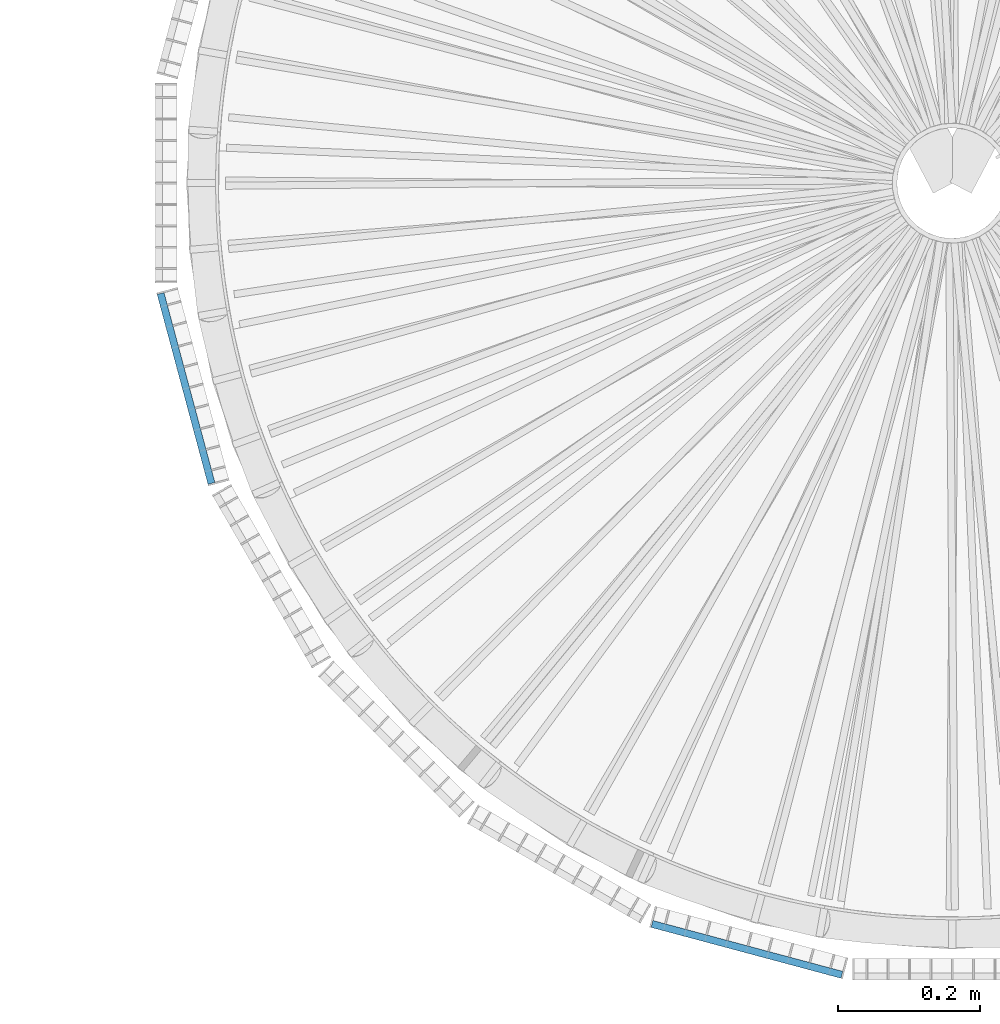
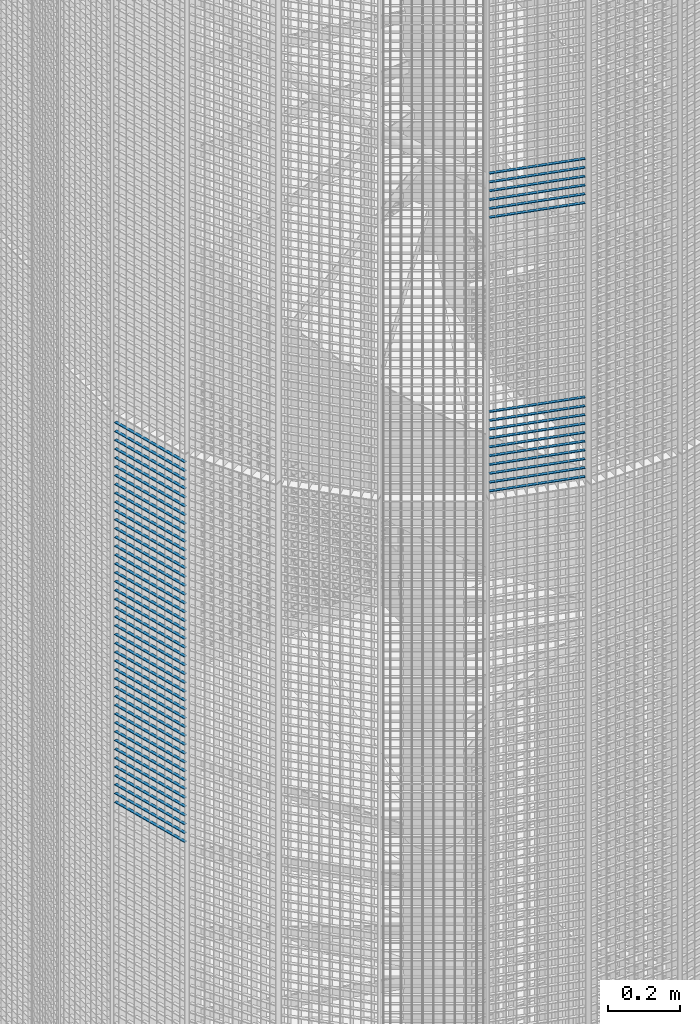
# One storey, part 340 of 1148: 60 beams, 2 elements without a shape of their own.
"""IFC2X3 building model written with IfcOpenShell, lengths in millimetres."""

from ifc_helpers import new_model, si_unit, frame, origin_with_axes, origin_2d_with_axis, place, context, subcontext, project, spatial, rectangle, extrude, material, type_object, element, aggregate, save


model = new_model("IFC2X3")

# Units and contexts
model_context = context("Model", 3, precision=1e-05, world=origin_with_axes())
body_context = subcontext(model_context, "Body", "Model", "MODEL_VIEW")
ifc_project = project(units=[si_unit("LENGTHUNIT", "METRE", prefix="MILLI"), si_unit("AREAUNIT", "SQUARE_METRE"), si_unit("VOLUMEUNIT", "CUBIC_METRE"), si_unit("MASSUNIT", "GRAM", prefix="KILO"), si_unit("TIMEUNIT", "SECOND"), si_unit("PLANEANGLEUNIT", "RADIAN"), si_unit("SOLIDANGLEUNIT", "STERADIAN"), si_unit("THERMODYNAMICTEMPERATUREUNIT", "DEGREE_CELSIUS"), si_unit("LUMINOUSINTENSITYUNIT", "LUMEN")], contexts=[model_context])

# Site, building, storey
site_placement = place(None, origin_with_axes())
site = spatial("IfcSite", under=ifc_project, at=site_placement, Name="Undefined", CompositionType="ELEMENT")
building_placement = place(site_placement, origin_with_axes())
building = spatial("IfcBuilding", under=site, at=building_placement, Name="Undefined", CompositionType="ELEMENT")
storey_placement = place(building_placement, origin_with_axes())
storey = spatial("IfcBuildingStorey", under=building, at=storey_placement, Name="Undefined", CompositionType="ELEMENT", Elevation=0.0)

# Assembly, beams
assembly_1_placement = place(storey_placement, origin_with_axes())
assembly_1 = element("IfcElementAssembly", 1, at=assembly_1_placement, inside=storey, Name="BORDURE", AssemblyPlace="NOTDEFINED", PredefinedType="NOTDEFINED")
ifc_material = material(Name="STEEL/S235JR")
beam_type = type_object("IfcBeamType", Name="PL2*10", PredefinedType="NOTDEFINED")
beam_1_placement = place(assembly_1_placement, frame((21445.1040732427, -1111.25508286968, 12960.0), z_axis=(-0.258819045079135, -0.965925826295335, 0.0), x_axis=(-0.965925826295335, 0.258819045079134, 0.0)))
beam_1 = element("IfcBeam", 2, at=beam_1_placement, type_object=beam_type, material=ifc_material, Name="ENTRETOISE", context=body_context, shape_type="SweptSolid", body=[
    extrude(rectangle(XDim=2.0, YDim=10.0, at=origin_2d_with_axis()), frame((275.999999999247, 9.09494701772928e-13, 1.53210777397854e-14), z_axis=(-1.0, 0.0, 0.0), x_axis=(0.0, -1.0, 0.0)), (0.0, 0.0, 1.0), 276.0),
])
beam_2_placement = place(assembly_1_placement, frame((21445.1040732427, -1111.25508286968, 12300.0), z_axis=(-0.258819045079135, -0.965925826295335, 0.0), x_axis=(-0.965925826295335, 0.258819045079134, 0.0)))
beam_2 = element("IfcBeam", 3, at=beam_2_placement, type_object=beam_type, material=ifc_material, Name="ENTRETOISE", context=body_context, shape_type="SweptSolid", body=[
    extrude(rectangle(XDim=2.0, YDim=10.0, at=origin_2d_with_axis()), frame((275.999999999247, 9.09494701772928e-13, 1.53210777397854e-14), z_axis=(-1.0, 0.0, 0.0), x_axis=(0.0, -1.0, 0.0)), (0.0, 0.0, 1.0), 276.0),
])
beam_3_placement = place(assembly_1_placement, frame((21445.1040732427, -1111.25508286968, 12270.0), z_axis=(-0.258819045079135, -0.965925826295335, 0.0), x_axis=(-0.965925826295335, 0.258819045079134, 0.0)))
beam_3 = element("IfcBeam", 4, at=beam_3_placement, type_object=beam_type, material=ifc_material, Name="ENTRETOISE", context=body_context, shape_type="SweptSolid", body=[
    extrude(rectangle(XDim=2.0, YDim=10.0, at=origin_2d_with_axis()), frame((275.999999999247, 9.09494701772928e-13, 1.53210777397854e-14), z_axis=(-1.0, 0.0, 0.0), x_axis=(0.0, -1.0, 0.0)), (0.0, 0.0, 1.0), 276.0),
])
beam_4_placement = place(assembly_1_placement, frame((21445.1040732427, -1111.25508286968, 12990.0), z_axis=(-0.258819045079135, -0.965925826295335, 0.0), x_axis=(-0.965925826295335, 0.258819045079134, 0.0)))
beam_4 = element("IfcBeam", 5, at=beam_4_placement, type_object=beam_type, material=ifc_material, Name="ENTRETOISE", context=body_context, shape_type="SweptSolid", body=[
    extrude(rectangle(XDim=2.0, YDim=10.0, at=origin_2d_with_axis()), frame((275.999999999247, 9.09494701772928e-13, 1.53210777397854e-14), z_axis=(-1.0, 0.0, 0.0), x_axis=(0.0, -1.0, 0.0)), (0.0, 0.0, 1.0), 276.0),
])
beam_5_placement = place(assembly_1_placement, frame((21445.1040732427, -1111.25508286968, 12240.0), z_axis=(-0.258819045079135, -0.965925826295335, 0.0), x_axis=(-0.965925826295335, 0.258819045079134, 0.0)))
beam_5 = element("IfcBeam", 6, at=beam_5_placement, type_object=beam_type, material=ifc_material, Name="ENTRETOISE", context=body_context, shape_type="SweptSolid", body=[
    extrude(rectangle(XDim=2.0, YDim=10.0, at=origin_2d_with_axis()), frame((275.999999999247, 9.09494701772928e-13, 1.53210777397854e-14), z_axis=(-1.0, 0.0, 0.0), x_axis=(0.0, -1.0, 0.0)), (0.0, 0.0, 1.0), 276.0),
])
beam_6_placement = place(assembly_1_placement, frame((21445.1040732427, -1111.25508286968, 13020.0), z_axis=(-0.258819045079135, -0.965925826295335, 0.0), x_axis=(-0.965925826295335, 0.258819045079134, 0.0)))
beam_6 = element("IfcBeam", 7, at=beam_6_placement, type_object=beam_type, material=ifc_material, Name="ENTRETOISE", context=body_context, shape_type="SweptSolid", body=[
    extrude(rectangle(XDim=2.0, YDim=10.0, at=origin_2d_with_axis()), frame((275.999999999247, 9.09494701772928e-13, 1.53210777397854e-14), z_axis=(-1.0, 0.0, 0.0), x_axis=(0.0, -1.0, 0.0)), (0.0, 0.0, 1.0), 276.0),
])
beam_7_placement = place(assembly_1_placement, frame((21445.1040732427, -1111.25508286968, 12210.0), z_axis=(-0.258819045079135, -0.965925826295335, 0.0), x_axis=(-0.965925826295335, 0.258819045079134, 0.0)))
beam_7 = element("IfcBeam", 8, at=beam_7_placement, type_object=beam_type, material=ifc_material, Name="ENTRETOISE", context=body_context, shape_type="SweptSolid", body=[
    extrude(rectangle(XDim=2.0, YDim=10.0, at=origin_2d_with_axis()), frame((275.999999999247, 9.09494701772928e-13, 1.53210777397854e-14), z_axis=(-1.0, 0.0, 0.0), x_axis=(0.0, -1.0, 0.0)), (0.0, 0.0, 1.0), 276.0),
])
beam_8_placement = place(assembly_1_placement, frame((21445.1040732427, -1111.25508286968, 12180.0), z_axis=(-0.258819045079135, -0.965925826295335, 0.0), x_axis=(-0.965925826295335, 0.258819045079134, 0.0)))
beam_8 = element("IfcBeam", 9, at=beam_8_placement, type_object=beam_type, material=ifc_material, Name="ENTRETOISE", context=body_context, shape_type="SweptSolid", body=[
    extrude(rectangle(XDim=2.0, YDim=10.0, at=origin_2d_with_axis()), frame((275.999999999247, 9.09494701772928e-13, 1.53210777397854e-14), z_axis=(-1.0, 0.0, 0.0), x_axis=(0.0, -1.0, 0.0)), (0.0, 0.0, 1.0), 276.0),
])
beam_9_placement = place(assembly_1_placement, frame((21445.1040732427, -1111.25508286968, 13050.0), z_axis=(-0.258819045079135, -0.965925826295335, 0.0), x_axis=(-0.965925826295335, 0.258819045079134, 0.0)))
beam_9 = element("IfcBeam", 10, at=beam_9_placement, type_object=beam_type, material=ifc_material, Name="ENTRETOISE", context=body_context, shape_type="SweptSolid", body=[
    extrude(rectangle(XDim=2.0, YDim=10.0, at=origin_2d_with_axis()), frame((275.999999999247, 9.09494701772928e-13, 1.53210777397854e-14), z_axis=(-1.0, 0.0, 0.0), x_axis=(0.0, -1.0, 0.0)), (0.0, 0.0, 1.0), 276.0),
])
beam_10_placement = place(assembly_1_placement, frame((21445.1040732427, -1111.25508286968, 12150.0), z_axis=(-0.258819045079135, -0.965925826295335, 0.0), x_axis=(-0.965925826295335, 0.258819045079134, 0.0)))
beam_10 = element("IfcBeam", 11, at=beam_10_placement, type_object=beam_type, material=ifc_material, Name="ENTRETOISE", context=body_context, shape_type="SweptSolid", body=[
    extrude(rectangle(XDim=2.0, YDim=10.0, at=origin_2d_with_axis()), frame((275.999999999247, 9.09494701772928e-13, 1.53210777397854e-14), z_axis=(-1.0, 0.0, 0.0), x_axis=(0.0, -1.0, 0.0)), (0.0, 0.0, 1.0), 276.0),
])
beam_11_placement = place(assembly_1_placement, frame((21445.1040732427, -1111.25508286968, 12120.0), z_axis=(-0.258819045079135, -0.965925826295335, 0.0), x_axis=(-0.965925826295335, 0.258819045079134, 0.0)))
beam_11 = element("IfcBeam", 12, at=beam_11_placement, type_object=beam_type, material=ifc_material, Name="ENTRETOISE", context=body_context, shape_type="SweptSolid", body=[
    extrude(rectangle(XDim=2.0, YDim=10.0, at=origin_2d_with_axis()), frame((275.999999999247, 9.09494701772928e-13, 1.53210777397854e-14), z_axis=(-1.0, 0.0, 0.0), x_axis=(0.0, -1.0, 0.0)), (0.0, 0.0, 1.0), 276.0),
])
beam_12_placement = place(assembly_1_placement, frame((21445.1040732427, -1111.25508286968, 13080.0), z_axis=(-0.258819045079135, -0.965925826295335, 0.0), x_axis=(-0.965925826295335, 0.258819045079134, 0.0)))
beam_12 = element("IfcBeam", 13, at=beam_12_placement, type_object=beam_type, material=ifc_material, Name="ENTRETOISE", context=body_context, shape_type="SweptSolid", body=[
    extrude(rectangle(XDim=2.0, YDim=10.0, at=origin_2d_with_axis()), frame((275.999999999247, 9.09494701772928e-13, 1.53210777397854e-14), z_axis=(-1.0, 0.0, 0.0), x_axis=(0.0, -1.0, 0.0)), (0.0, 0.0, 1.0), 276.0),
])
beam_13_placement = place(assembly_1_placement, frame((21445.1040732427, -1111.25508286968, 12090.0), z_axis=(-0.258819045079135, -0.965925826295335, 0.0), x_axis=(-0.965925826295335, 0.258819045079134, 0.0)))
beam_13 = element("IfcBeam", 14, at=beam_13_placement, type_object=beam_type, material=ifc_material, Name="ENTRETOISE", context=body_context, shape_type="SweptSolid", body=[
    extrude(rectangle(XDim=2.0, YDim=10.0, at=origin_2d_with_axis()), frame((275.999999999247, 9.09494701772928e-13, 1.53210777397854e-14), z_axis=(-1.0, 0.0, 0.0), x_axis=(0.0, -1.0, 0.0)), (0.0, 0.0, 1.0), 276.0),
])
beam_14_placement = place(assembly_1_placement, frame((21445.1040732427, -1111.25508286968, 12060.0), z_axis=(-0.258819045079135, -0.965925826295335, 0.0), x_axis=(-0.965925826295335, 0.258819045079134, 0.0)))
beam_14 = element("IfcBeam", 15, at=beam_14_placement, type_object=beam_type, material=ifc_material, Name="ENTRETOISE", context=body_context, shape_type="SweptSolid", body=[
    extrude(rectangle(XDim=2.0, YDim=10.0, at=origin_2d_with_axis()), frame((275.999999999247, 9.09494701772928e-13, 1.53210777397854e-14), z_axis=(-1.0, 0.0, 0.0), x_axis=(0.0, -1.0, 0.0)), (0.0, 0.0, 1.0), 276.0),
])
beam_15_placement = place(assembly_1_placement, frame((21445.1040732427, -1111.25508286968, 13110.0), z_axis=(-0.258819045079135, -0.965925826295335, 0.0), x_axis=(-0.965925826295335, 0.258819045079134, 0.0)))
beam_15 = element("IfcBeam", 16, at=beam_15_placement, type_object=beam_type, material=ifc_material, Name="ENTRETOISE", context=body_context, shape_type="SweptSolid", body=[
    extrude(rectangle(XDim=2.0, YDim=10.0, at=origin_2d_with_axis()), frame((275.999999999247, 9.09494701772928e-13, 1.53210777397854e-14), z_axis=(-1.0, 0.0, 0.0), x_axis=(0.0, -1.0, 0.0)), (0.0, 0.0, 1.0), 276.0),
])
beam_16_placement = place(assembly_1_placement, frame((21445.1040732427, -1111.25508286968, 12030.0), z_axis=(-0.258819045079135, -0.965925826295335, 0.0), x_axis=(-0.965925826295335, 0.258819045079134, 0.0)))
beam_16 = element("IfcBeam", 17, at=beam_16_placement, type_object=beam_type, material=ifc_material, Name="ENTRETOISE", context=body_context, shape_type="SweptSolid", body=[
    extrude(rectangle(XDim=2.0, YDim=10.0, at=origin_2d_with_axis()), frame((275.999999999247, 9.09494701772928e-13, 1.53210777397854e-14), z_axis=(-1.0, 0.0, 0.0), x_axis=(0.0, -1.0, 0.0)), (0.0, 0.0, 1.0), 276.0),
])
aggregate(assembly_1, [beam_1, beam_2, beam_3, beam_4, beam_5, beam_6, beam_7, beam_8, beam_9, beam_10, beam_11, beam_12, beam_13, beam_14, beam_15, beam_16])

assembly_2_placement = place(storey_placement, origin_with_axes())
assembly_2 = element("IfcElementAssembly", 18, at=assembly_2_placement, inside=storey, Name="BORDURE", AssemblyPlace="NOTDEFINED", PredefinedType="NOTDEFINED")
beam_17_placement = place(assembly_2_placement, frame((20560.1769047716, -421.483733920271, 11970.0), z_axis=(-0.965925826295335, -0.258819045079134, 0.0), x_axis=(-0.258819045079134, 0.965925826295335, 0.0)))
beam_17 = element("IfcBeam", 19, at=beam_17_placement, type_object=beam_type, material=ifc_material, Name="ENTRETOISE", context=body_context, shape_type="SweptSolid", body=[
    extrude(rectangle(XDim=2.0, YDim=10.0, at=origin_2d_with_axis()), frame((275.999999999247, 9.09494701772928e-13, 1.53210777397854e-14), z_axis=(-1.0, 0.0, 0.0), x_axis=(0.0, -1.0, 0.0)), (0.0, 0.0, 1.0), 276.0),
])
beam_18_placement = place(assembly_2_placement, frame((20560.1769047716, -421.483733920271, 11940.0), z_axis=(-0.965925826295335, -0.258819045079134, 0.0), x_axis=(-0.258819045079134, 0.965925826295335, 0.0)))
beam_18 = element("IfcBeam", 20, at=beam_18_placement, type_object=beam_type, material=ifc_material, Name="ENTRETOISE", context=body_context, shape_type="SweptSolid", body=[
    extrude(rectangle(XDim=2.0, YDim=10.0, at=origin_2d_with_axis()), frame((275.999999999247, 9.09494701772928e-13, 1.53210777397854e-14), z_axis=(-1.0, 0.0, 0.0), x_axis=(0.0, -1.0, 0.0)), (0.0, 0.0, 1.0), 276.0),
])
beam_19_placement = place(assembly_2_placement, frame((20560.1769047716, -421.483733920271, 11910.0), z_axis=(-0.965925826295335, -0.258819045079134, 0.0), x_axis=(-0.258819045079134, 0.965925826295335, 0.0)))
beam_19 = element("IfcBeam", 21, at=beam_19_placement, type_object=beam_type, material=ifc_material, Name="ENTRETOISE", context=body_context, shape_type="SweptSolid", body=[
    extrude(rectangle(XDim=2.0, YDim=10.0, at=origin_2d_with_axis()), frame((275.999999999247, 9.09494701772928e-13, 1.53210777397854e-14), z_axis=(-1.0, 0.0, 0.0), x_axis=(0.0, -1.0, 0.0)), (0.0, 0.0, 1.0), 276.0),
])
beam_20_placement = place(assembly_2_placement, frame((20560.1769047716, -421.483733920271, 11880.0), z_axis=(-0.965925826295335, -0.258819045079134, 0.0), x_axis=(-0.258819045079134, 0.965925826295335, 0.0)))
beam_20 = element("IfcBeam", 22, at=beam_20_placement, type_object=beam_type, material=ifc_material, Name="ENTRETOISE", context=body_context, shape_type="SweptSolid", body=[
    extrude(rectangle(XDim=2.0, YDim=10.0, at=origin_2d_with_axis()), frame((275.999999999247, 9.09494701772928e-13, 1.53210777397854e-14), z_axis=(-1.0, 0.0, 0.0), x_axis=(0.0, -1.0, 0.0)), (0.0, 0.0, 1.0), 276.0),
])
beam_21_placement = place(assembly_2_placement, frame((20560.1769047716, -421.483733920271, 11850.0), z_axis=(-0.965925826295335, -0.258819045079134, 0.0), x_axis=(-0.258819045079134, 0.965925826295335, 0.0)))
beam_21 = element("IfcBeam", 23, at=beam_21_placement, type_object=beam_type, material=ifc_material, Name="ENTRETOISE", context=body_context, shape_type="SweptSolid", body=[
    extrude(rectangle(XDim=2.0, YDim=10.0, at=origin_2d_with_axis()), frame((275.999999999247, 9.09494701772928e-13, 1.53210777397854e-14), z_axis=(-1.0, 0.0, 0.0), x_axis=(0.0, -1.0, 0.0)), (0.0, 0.0, 1.0), 276.0),
])
beam_22_placement = place(assembly_2_placement, frame((20560.1769047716, -421.483733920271, 11820.0), z_axis=(-0.965925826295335, -0.258819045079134, 0.0), x_axis=(-0.258819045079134, 0.965925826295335, 0.0)))
beam_22 = element("IfcBeam", 24, at=beam_22_placement, type_object=beam_type, material=ifc_material, Name="ENTRETOISE", context=body_context, shape_type="SweptSolid", body=[
    extrude(rectangle(XDim=2.0, YDim=10.0, at=origin_2d_with_axis()), frame((275.999999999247, 9.09494701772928e-13, 1.53210777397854e-14), z_axis=(-1.0, 0.0, 0.0), x_axis=(0.0, -1.0, 0.0)), (0.0, 0.0, 1.0), 276.0),
])
beam_23_placement = place(assembly_2_placement, frame((20560.1769047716, -421.483733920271, 11790.0), z_axis=(-0.965925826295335, -0.258819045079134, 0.0), x_axis=(-0.258819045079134, 0.965925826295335, 0.0)))
beam_23 = element("IfcBeam", 25, at=beam_23_placement, type_object=beam_type, material=ifc_material, Name="ENTRETOISE", context=body_context, shape_type="SweptSolid", body=[
    extrude(rectangle(XDim=2.0, YDim=10.0, at=origin_2d_with_axis()), frame((275.999999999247, 9.09494701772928e-13, 1.53210777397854e-14), z_axis=(-1.0, 0.0, 0.0), x_axis=(0.0, -1.0, 0.0)), (0.0, 0.0, 1.0), 276.0),
])
beam_24_placement = place(assembly_2_placement, frame((20560.1769047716, -421.483733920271, 11760.0), z_axis=(-0.965925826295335, -0.258819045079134, 0.0), x_axis=(-0.258819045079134, 0.965925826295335, 0.0)))
beam_24 = element("IfcBeam", 26, at=beam_24_placement, type_object=beam_type, material=ifc_material, Name="ENTRETOISE", context=body_context, shape_type="SweptSolid", body=[
    extrude(rectangle(XDim=2.0, YDim=10.0, at=origin_2d_with_axis()), frame((275.999999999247, 9.09494701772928e-13, 1.53210777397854e-14), z_axis=(-1.0, 0.0, 0.0), x_axis=(0.0, -1.0, 0.0)), (0.0, 0.0, 1.0), 276.0),
])
beam_25_placement = place(assembly_2_placement, frame((20560.1769047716, -421.48373392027, 11730.0), z_axis=(-0.965925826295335, -0.258819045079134, 0.0), x_axis=(-0.258819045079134, 0.965925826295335, 0.0)))
beam_25 = element("IfcBeam", 27, at=beam_25_placement, type_object=beam_type, material=ifc_material, Name="ENTRETOISE", context=body_context, shape_type="SweptSolid", body=[
    extrude(rectangle(XDim=2.0, YDim=10.0, at=origin_2d_with_axis()), frame((275.999999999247, 9.09494701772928e-13, 1.53210777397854e-14), z_axis=(-1.0, 0.0, 0.0), x_axis=(0.0, -1.0, 0.0)), (0.0, 0.0, 1.0), 276.0),
])
beam_26_placement = place(assembly_2_placement, frame((20560.1769047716, -421.48373392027, 11700.0), z_axis=(-0.965925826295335, -0.258819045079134, 0.0), x_axis=(-0.258819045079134, 0.965925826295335, 0.0)))
beam_26 = element("IfcBeam", 28, at=beam_26_placement, type_object=beam_type, material=ifc_material, Name="ENTRETOISE", context=body_context, shape_type="SweptSolid", body=[
    extrude(rectangle(XDim=2.0, YDim=10.0, at=origin_2d_with_axis()), frame((275.999999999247, 9.09494701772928e-13, 1.53210777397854e-14), z_axis=(-1.0, 0.0, 0.0), x_axis=(0.0, -1.0, 0.0)), (0.0, 0.0, 1.0), 276.0),
])
beam_27_placement = place(assembly_2_placement, frame((20560.1769047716, -421.48373392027, 11670.0), z_axis=(-0.965925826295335, -0.258819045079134, 0.0), x_axis=(-0.258819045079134, 0.965925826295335, 0.0)))
beam_27 = element("IfcBeam", 29, at=beam_27_placement, type_object=beam_type, material=ifc_material, Name="ENTRETOISE", context=body_context, shape_type="SweptSolid", body=[
    extrude(rectangle(XDim=2.0, YDim=10.0, at=origin_2d_with_axis()), frame((275.999999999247, 9.09494701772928e-13, 1.53210777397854e-14), z_axis=(-1.0, 0.0, 0.0), x_axis=(0.0, -1.0, 0.0)), (0.0, 0.0, 1.0), 276.0),
])
beam_28_placement = place(assembly_2_placement, frame((20560.1769047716, -421.48373392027, 11640.0), z_axis=(-0.965925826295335, -0.258819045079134, 0.0), x_axis=(-0.258819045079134, 0.965925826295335, 0.0)))
beam_28 = element("IfcBeam", 30, at=beam_28_placement, type_object=beam_type, material=ifc_material, Name="ENTRETOISE", context=body_context, shape_type="SweptSolid", body=[
    extrude(rectangle(XDim=2.0, YDim=10.0, at=origin_2d_with_axis()), frame((275.999999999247, 9.09494701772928e-13, 1.53210777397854e-14), z_axis=(-1.0, 0.0, 0.0), x_axis=(0.0, -1.0, 0.0)), (0.0, 0.0, 1.0), 276.0),
])
beam_29_placement = place(assembly_2_placement, frame((20560.1769047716, -421.48373392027, 11610.0), z_axis=(-0.965925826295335, -0.258819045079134, 0.0), x_axis=(-0.258819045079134, 0.965925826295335, 0.0)))
beam_29 = element("IfcBeam", 31, at=beam_29_placement, type_object=beam_type, material=ifc_material, Name="ENTRETOISE", context=body_context, shape_type="SweptSolid", body=[
    extrude(rectangle(XDim=2.0, YDim=10.0, at=origin_2d_with_axis()), frame((275.999999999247, 9.09494701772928e-13, 1.53210777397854e-14), z_axis=(-1.0, 0.0, 0.0), x_axis=(0.0, -1.0, 0.0)), (0.0, 0.0, 1.0), 276.0),
])
beam_30_placement = place(assembly_2_placement, frame((20560.1769047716, -421.48373392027, 11580.0), z_axis=(-0.965925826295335, -0.258819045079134, 0.0), x_axis=(-0.258819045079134, 0.965925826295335, 0.0)))
beam_30 = element("IfcBeam", 32, at=beam_30_placement, type_object=beam_type, material=ifc_material, Name="ENTRETOISE", context=body_context, shape_type="SweptSolid", body=[
    extrude(rectangle(XDim=2.0, YDim=10.0, at=origin_2d_with_axis()), frame((275.999999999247, 9.09494701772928e-13, 1.53210777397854e-14), z_axis=(-1.0, 0.0, 0.0), x_axis=(0.0, -1.0, 0.0)), (0.0, 0.0, 1.0), 276.0),
])
beam_31_placement = place(assembly_2_placement, frame((20560.1769047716, -421.48373392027, 11550.0), z_axis=(-0.965925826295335, -0.258819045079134, 0.0), x_axis=(-0.258819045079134, 0.965925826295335, 0.0)))
beam_31 = element("IfcBeam", 33, at=beam_31_placement, type_object=beam_type, material=ifc_material, Name="ENTRETOISE", context=body_context, shape_type="SweptSolid", body=[
    extrude(rectangle(XDim=2.0, YDim=10.0, at=origin_2d_with_axis()), frame((275.999999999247, 9.09494701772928e-13, 1.53210777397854e-14), z_axis=(-1.0, 0.0, 0.0), x_axis=(0.0, -1.0, 0.0)), (0.0, 0.0, 1.0), 276.0),
])
beam_32_placement = place(assembly_2_placement, frame((20560.1769047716, -421.48373392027, 11520.0), z_axis=(-0.965925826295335, -0.258819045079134, 0.0), x_axis=(-0.258819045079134, 0.965925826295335, 0.0)))
beam_32 = element("IfcBeam", 34, at=beam_32_placement, type_object=beam_type, material=ifc_material, Name="ENTRETOISE", context=body_context, shape_type="SweptSolid", body=[
    extrude(rectangle(XDim=2.0, YDim=10.0, at=origin_2d_with_axis()), frame((275.999999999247, 9.09494701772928e-13, 1.53210777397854e-14), z_axis=(-1.0, 0.0, 0.0), x_axis=(0.0, -1.0, 0.0)), (0.0, 0.0, 1.0), 276.0),
])
beam_33_placement = place(assembly_2_placement, frame((20560.1769047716, -421.48373392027, 11490.0), z_axis=(-0.965925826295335, -0.258819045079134, 0.0), x_axis=(-0.258819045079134, 0.965925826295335, 0.0)))
beam_33 = element("IfcBeam", 35, at=beam_33_placement, type_object=beam_type, material=ifc_material, Name="ENTRETOISE", context=body_context, shape_type="SweptSolid", body=[
    extrude(rectangle(XDim=2.0, YDim=10.0, at=origin_2d_with_axis()), frame((275.999999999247, 9.09494701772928e-13, 1.53210777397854e-14), z_axis=(-1.0, 0.0, 0.0), x_axis=(0.0, -1.0, 0.0)), (0.0, 0.0, 1.0), 276.0),
])
beam_34_placement = place(assembly_2_placement, frame((20560.1769047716, -421.483733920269, 11460.0), z_axis=(-0.965925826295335, -0.258819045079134, 0.0), x_axis=(-0.258819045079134, 0.965925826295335, 0.0)))
beam_34 = element("IfcBeam", 36, at=beam_34_placement, type_object=beam_type, material=ifc_material, Name="ENTRETOISE", context=body_context, shape_type="SweptSolid", body=[
    extrude(rectangle(XDim=2.0, YDim=10.0, at=origin_2d_with_axis()), frame((275.999999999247, 9.09494701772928e-13, 1.53210777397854e-14), z_axis=(-1.0, 0.0, 0.0), x_axis=(0.0, -1.0, 0.0)), (0.0, 0.0, 1.0), 276.0),
])
beam_35_placement = place(assembly_2_placement, frame((20560.1769047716, -421.483733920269, 11430.0), z_axis=(-0.965925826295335, -0.258819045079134, 0.0), x_axis=(-0.258819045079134, 0.965925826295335, 0.0)))
beam_35 = element("IfcBeam", 37, at=beam_35_placement, type_object=beam_type, material=ifc_material, Name="ENTRETOISE", context=body_context, shape_type="SweptSolid", body=[
    extrude(rectangle(XDim=2.0, YDim=10.0, at=origin_2d_with_axis()), frame((275.999999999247, 9.09494701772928e-13, 1.53210777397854e-14), z_axis=(-1.0, 0.0, 0.0), x_axis=(0.0, -1.0, 0.0)), (0.0, 0.0, 1.0), 276.0),
])
beam_36_placement = place(assembly_2_placement, frame((20560.1769047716, -421.483733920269, 11400.0), z_axis=(-0.965925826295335, -0.258819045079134, 0.0), x_axis=(-0.258819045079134, 0.965925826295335, 0.0)))
beam_36 = element("IfcBeam", 38, at=beam_36_placement, type_object=beam_type, material=ifc_material, Name="ENTRETOISE", context=body_context, shape_type="SweptSolid", body=[
    extrude(rectangle(XDim=2.0, YDim=10.0, at=origin_2d_with_axis()), frame((275.999999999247, 9.09494701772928e-13, 1.53210777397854e-14), z_axis=(-1.0, 0.0, 0.0), x_axis=(0.0, -1.0, 0.0)), (0.0, 0.0, 1.0), 276.0),
])
beam_37_placement = place(assembly_2_placement, frame((20560.1769047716, -421.483733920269, 11370.0), z_axis=(-0.965925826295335, -0.258819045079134, 0.0), x_axis=(-0.258819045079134, 0.965925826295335, 0.0)))
beam_37 = element("IfcBeam", 39, at=beam_37_placement, type_object=beam_type, material=ifc_material, Name="ENTRETOISE", context=body_context, shape_type="SweptSolid", body=[
    extrude(rectangle(XDim=2.0, YDim=10.0, at=origin_2d_with_axis()), frame((275.999999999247, 9.09494701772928e-13, 1.53210777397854e-14), z_axis=(-1.0, 0.0, 0.0), x_axis=(0.0, -1.0, 0.0)), (0.0, 0.0, 1.0), 276.0),
])
beam_38_placement = place(assembly_2_placement, frame((20560.1769047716, -421.483733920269, 11340.0), z_axis=(-0.965925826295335, -0.258819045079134, 0.0), x_axis=(-0.258819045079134, 0.965925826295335, 0.0)))
beam_38 = element("IfcBeam", 40, at=beam_38_placement, type_object=beam_type, material=ifc_material, Name="ENTRETOISE", context=body_context, shape_type="SweptSolid", body=[
    extrude(rectangle(XDim=2.0, YDim=10.0, at=origin_2d_with_axis()), frame((275.999999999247, 9.09494701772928e-13, 1.53210777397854e-14), z_axis=(-1.0, 0.0, 0.0), x_axis=(0.0, -1.0, 0.0)), (0.0, 0.0, 1.0), 276.0),
])
beam_39_placement = place(assembly_2_placement, frame((20560.1769047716, -421.483733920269, 11310.0), z_axis=(-0.965925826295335, -0.258819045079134, 0.0), x_axis=(-0.258819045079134, 0.965925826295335, 0.0)))
beam_39 = element("IfcBeam", 41, at=beam_39_placement, type_object=beam_type, material=ifc_material, Name="ENTRETOISE", context=body_context, shape_type="SweptSolid", body=[
    extrude(rectangle(XDim=2.0, YDim=10.0, at=origin_2d_with_axis()), frame((275.999999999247, 9.09494701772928e-13, 1.53210777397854e-14), z_axis=(-1.0, 0.0, 0.0), x_axis=(0.0, -1.0, 0.0)), (0.0, 0.0, 1.0), 276.0),
])
beam_40_placement = place(assembly_2_placement, frame((20560.1769047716, -421.483733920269, 11280.0), z_axis=(-0.965925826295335, -0.258819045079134, 0.0), x_axis=(-0.258819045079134, 0.965925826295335, 0.0)))
beam_40 = element("IfcBeam", 42, at=beam_40_placement, type_object=beam_type, material=ifc_material, Name="ENTRETOISE", context=body_context, shape_type="SweptSolid", body=[
    extrude(rectangle(XDim=2.0, YDim=10.0, at=origin_2d_with_axis()), frame((275.999999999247, 9.09494701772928e-13, 1.53210777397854e-14), z_axis=(-1.0, 0.0, 0.0), x_axis=(0.0, -1.0, 0.0)), (0.0, 0.0, 1.0), 276.0),
])
beam_41_placement = place(assembly_2_placement, frame((20560.1769047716, -421.483733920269, 11250.0), z_axis=(-0.965925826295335, -0.258819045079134, 0.0), x_axis=(-0.258819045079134, 0.965925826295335, 0.0)))
beam_41 = element("IfcBeam", 43, at=beam_41_placement, type_object=beam_type, material=ifc_material, Name="ENTRETOISE", context=body_context, shape_type="SweptSolid", body=[
    extrude(rectangle(XDim=2.0, YDim=10.0, at=origin_2d_with_axis()), frame((275.999999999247, 9.09494701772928e-13, 1.53210777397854e-14), z_axis=(-1.0, 0.0, 0.0), x_axis=(0.0, -1.0, 0.0)), (0.0, 0.0, 1.0), 276.0),
])
beam_42_placement = place(assembly_2_placement, frame((20560.1769047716, -421.483733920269, 11220.0), z_axis=(-0.965925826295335, -0.258819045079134, 0.0), x_axis=(-0.258819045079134, 0.965925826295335, 0.0)))
beam_42 = element("IfcBeam", 44, at=beam_42_placement, type_object=beam_type, material=ifc_material, Name="ENTRETOISE", context=body_context, shape_type="SweptSolid", body=[
    extrude(rectangle(XDim=2.0, YDim=10.0, at=origin_2d_with_axis()), frame((275.999999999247, 9.09494701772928e-13, 1.53210777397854e-14), z_axis=(-1.0, 0.0, 0.0), x_axis=(0.0, -1.0, 0.0)), (0.0, 0.0, 1.0), 276.0),
])
beam_43_placement = place(assembly_2_placement, frame((20560.1769047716, -421.483733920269, 11190.0), z_axis=(-0.965925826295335, -0.258819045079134, 0.0), x_axis=(-0.258819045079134, 0.965925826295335, 0.0)))
beam_43 = element("IfcBeam", 45, at=beam_43_placement, type_object=beam_type, material=ifc_material, Name="ENTRETOISE", context=body_context, shape_type="SweptSolid", body=[
    extrude(rectangle(XDim=2.0, YDim=10.0, at=origin_2d_with_axis()), frame((275.999999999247, 9.09494701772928e-13, 1.53210777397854e-14), z_axis=(-1.0, 0.0, 0.0), x_axis=(0.0, -1.0, 0.0)), (0.0, 0.0, 1.0), 276.0),
])
beam_44_placement = place(assembly_2_placement, frame((20560.1769047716, -421.483733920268, 11160.0), z_axis=(-0.965925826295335, -0.258819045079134, 0.0), x_axis=(-0.258819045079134, 0.965925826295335, 0.0)))
beam_44 = element("IfcBeam", 46, at=beam_44_placement, type_object=beam_type, material=ifc_material, Name="ENTRETOISE", context=body_context, shape_type="SweptSolid", body=[
    extrude(rectangle(XDim=2.0, YDim=10.0, at=origin_2d_with_axis()), frame((275.999999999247, 9.09494701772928e-13, 1.53210777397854e-14), z_axis=(-1.0, 0.0, 0.0), x_axis=(0.0, -1.0, 0.0)), (0.0, 0.0, 1.0), 276.0),
])
beam_45_placement = place(assembly_2_placement, frame((20560.1769047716, -421.483733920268, 11130.0), z_axis=(-0.965925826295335, -0.258819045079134, 0.0), x_axis=(-0.258819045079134, 0.965925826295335, 0.0)))
beam_45 = element("IfcBeam", 47, at=beam_45_placement, type_object=beam_type, material=ifc_material, Name="ENTRETOISE", context=body_context, shape_type="SweptSolid", body=[
    extrude(rectangle(XDim=2.0, YDim=10.0, at=origin_2d_with_axis()), frame((275.999999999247, 9.09494701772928e-13, 1.53210777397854e-14), z_axis=(-1.0, 0.0, 0.0), x_axis=(0.0, -1.0, 0.0)), (0.0, 0.0, 1.0), 276.0),
])
beam_46_placement = place(assembly_2_placement, frame((20560.1769047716, -421.483733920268, 11100.0), z_axis=(-0.965925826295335, -0.258819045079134, 0.0), x_axis=(-0.258819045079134, 0.965925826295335, 0.0)))
beam_46 = element("IfcBeam", 48, at=beam_46_placement, type_object=beam_type, material=ifc_material, Name="ENTRETOISE", context=body_context, shape_type="SweptSolid", body=[
    extrude(rectangle(XDim=2.0, YDim=10.0, at=origin_2d_with_axis()), frame((275.999999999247, 9.09494701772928e-13, 1.53210777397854e-14), z_axis=(-1.0, 0.0, 0.0), x_axis=(0.0, -1.0, 0.0)), (0.0, 0.0, 1.0), 276.0),
])
beam_47_placement = place(assembly_2_placement, frame((20560.1769047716, -421.483733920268, 11070.0), z_axis=(-0.965925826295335, -0.258819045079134, 0.0), x_axis=(-0.258819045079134, 0.965925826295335, 0.0)))
beam_47 = element("IfcBeam", 49, at=beam_47_placement, type_object=beam_type, material=ifc_material, Name="ENTRETOISE", context=body_context, shape_type="SweptSolid", body=[
    extrude(rectangle(XDim=2.0, YDim=10.0, at=origin_2d_with_axis()), frame((275.999999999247, 9.09494701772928e-13, 1.53210777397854e-14), z_axis=(-1.0, 0.0, 0.0), x_axis=(0.0, -1.0, 0.0)), (0.0, 0.0, 1.0), 276.0),
])
beam_48_placement = place(assembly_2_placement, frame((20560.1769047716, -421.483733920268, 11040.0), z_axis=(-0.965925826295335, -0.258819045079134, 0.0), x_axis=(-0.258819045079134, 0.965925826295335, 0.0)))
beam_48 = element("IfcBeam", 50, at=beam_48_placement, type_object=beam_type, material=ifc_material, Name="ENTRETOISE", context=body_context, shape_type="SweptSolid", body=[
    extrude(rectangle(XDim=2.0, YDim=10.0, at=origin_2d_with_axis()), frame((275.999999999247, 9.09494701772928e-13, 1.53210777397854e-14), z_axis=(-1.0, 0.0, 0.0), x_axis=(0.0, -1.0, 0.0)), (0.0, 0.0, 1.0), 276.0),
])
beam_49_placement = place(assembly_2_placement, frame((20560.1769047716, -421.483733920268, 11010.0), z_axis=(-0.965925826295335, -0.258819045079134, 0.0), x_axis=(-0.258819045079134, 0.965925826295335, 0.0)))
beam_49 = element("IfcBeam", 51, at=beam_49_placement, type_object=beam_type, material=ifc_material, Name="ENTRETOISE", context=body_context, shape_type="SweptSolid", body=[
    extrude(rectangle(XDim=2.0, YDim=10.0, at=origin_2d_with_axis()), frame((275.999999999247, 9.09494701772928e-13, 1.53210777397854e-14), z_axis=(-1.0, 0.0, 0.0), x_axis=(0.0, -1.0, 0.0)), (0.0, 0.0, 1.0), 276.0),
])
beam_50_placement = place(assembly_2_placement, frame((20560.1769047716, -421.483733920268, 10980.0), z_axis=(-0.965925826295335, -0.258819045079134, 0.0), x_axis=(-0.258819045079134, 0.965925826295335, 0.0)))
beam_50 = element("IfcBeam", 52, at=beam_50_placement, type_object=beam_type, material=ifc_material, Name="ENTRETOISE", context=body_context, shape_type="SweptSolid", body=[
    extrude(rectangle(XDim=2.0, YDim=10.0, at=origin_2d_with_axis()), frame((275.999999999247, 9.09494701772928e-13, 1.53210777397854e-14), z_axis=(-1.0, 0.0, 0.0), x_axis=(0.0, -1.0, 0.0)), (0.0, 0.0, 1.0), 276.0),
])
beam_51_placement = place(assembly_2_placement, frame((20560.1769047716, -421.483733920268, 10950.0), z_axis=(-0.965925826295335, -0.258819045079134, 0.0), x_axis=(-0.258819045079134, 0.965925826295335, 0.0)))
beam_51 = element("IfcBeam", 53, at=beam_51_placement, type_object=beam_type, material=ifc_material, Name="ENTRETOISE", context=body_context, shape_type="SweptSolid", body=[
    extrude(rectangle(XDim=2.0, YDim=10.0, at=origin_2d_with_axis()), frame((275.999999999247, 9.09494701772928e-13, 1.53210777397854e-14), z_axis=(-1.0, 0.0, 0.0), x_axis=(0.0, -1.0, 0.0)), (0.0, 0.0, 1.0), 276.0),
])
beam_52_placement = place(assembly_2_placement, frame((20560.1769047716, -421.483733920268, 10920.0), z_axis=(-0.965925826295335, -0.258819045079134, 0.0), x_axis=(-0.258819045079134, 0.965925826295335, 0.0)))
beam_52 = element("IfcBeam", 54, at=beam_52_placement, type_object=beam_type, material=ifc_material, Name="ENTRETOISE", context=body_context, shape_type="SweptSolid", body=[
    extrude(rectangle(XDim=2.0, YDim=10.0, at=origin_2d_with_axis()), frame((275.999999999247, 9.09494701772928e-13, 1.53210777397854e-14), z_axis=(-1.0, 0.0, 0.0), x_axis=(0.0, -1.0, 0.0)), (0.0, 0.0, 1.0), 276.0),
])
beam_53_placement = place(assembly_2_placement, frame((20560.1769047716, -421.483733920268, 10890.0), z_axis=(-0.965925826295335, -0.258819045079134, 0.0), x_axis=(-0.258819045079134, 0.965925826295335, 0.0)))
beam_53 = element("IfcBeam", 55, at=beam_53_placement, type_object=beam_type, material=ifc_material, Name="ENTRETOISE", context=body_context, shape_type="SweptSolid", body=[
    extrude(rectangle(XDim=2.0, YDim=10.0, at=origin_2d_with_axis()), frame((275.999999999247, 9.09494701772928e-13, 1.53210777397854e-14), z_axis=(-1.0, 0.0, 0.0), x_axis=(0.0, -1.0, 0.0)), (0.0, 0.0, 1.0), 276.0),
])
beam_54_placement = place(assembly_2_placement, frame((20560.1769047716, -421.483733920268, 10860.0), z_axis=(-0.965925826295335, -0.258819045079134, 0.0), x_axis=(-0.258819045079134, 0.965925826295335, 0.0)))
beam_54 = element("IfcBeam", 56, at=beam_54_placement, type_object=beam_type, material=ifc_material, Name="ENTRETOISE", context=body_context, shape_type="SweptSolid", body=[
    extrude(rectangle(XDim=2.0, YDim=10.0, at=origin_2d_with_axis()), frame((275.999999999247, 9.09494701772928e-13, 1.53210777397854e-14), z_axis=(-1.0, 0.0, 0.0), x_axis=(0.0, -1.0, 0.0)), (0.0, 0.0, 1.0), 276.0),
])
beam_55_placement = place(assembly_2_placement, frame((20560.1769047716, -421.483733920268, 10830.0), z_axis=(-0.965925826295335, -0.258819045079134, 0.0), x_axis=(-0.258819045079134, 0.965925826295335, 0.0)))
beam_55 = element("IfcBeam", 57, at=beam_55_placement, type_object=beam_type, material=ifc_material, Name="ENTRETOISE", context=body_context, shape_type="SweptSolid", body=[
    extrude(rectangle(XDim=2.0, YDim=10.0, at=origin_2d_with_axis()), frame((275.999999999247, 9.09494701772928e-13, 1.53210777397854e-14), z_axis=(-1.0, 0.0, 0.0), x_axis=(0.0, -1.0, 0.0)), (0.0, 0.0, 1.0), 276.0),
])
beam_56_placement = place(assembly_2_placement, frame((20560.1769047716, -421.483733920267, 10800.0), z_axis=(-0.965925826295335, -0.258819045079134, 0.0), x_axis=(-0.258819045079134, 0.965925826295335, 0.0)))
beam_56 = element("IfcBeam", 58, at=beam_56_placement, type_object=beam_type, material=ifc_material, Name="ENTRETOISE", context=body_context, shape_type="SweptSolid", body=[
    extrude(rectangle(XDim=2.0, YDim=10.0, at=origin_2d_with_axis()), frame((275.999999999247, 9.09494701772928e-13, 1.53210777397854e-14), z_axis=(-1.0, 0.0, 0.0), x_axis=(0.0, -1.0, 0.0)), (0.0, 0.0, 1.0), 276.0),
])
beam_57_placement = place(assembly_2_placement, frame((20560.1769047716, -421.483733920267, 10770.0), z_axis=(-0.965925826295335, -0.258819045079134, 0.0), x_axis=(-0.258819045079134, 0.965925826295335, 0.0)))
beam_57 = element("IfcBeam", 59, at=beam_57_placement, type_object=beam_type, material=ifc_material, Name="ENTRETOISE", context=body_context, shape_type="SweptSolid", body=[
    extrude(rectangle(XDim=2.0, YDim=10.0, at=origin_2d_with_axis()), frame((275.999999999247, 9.09494701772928e-13, 1.53210777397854e-14), z_axis=(-1.0, 0.0, 0.0), x_axis=(0.0, -1.0, 0.0)), (0.0, 0.0, 1.0), 276.0),
])
beam_58_placement = place(assembly_2_placement, frame((20560.1769047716, -421.483733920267, 10740.0), z_axis=(-0.965925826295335, -0.258819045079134, 0.0), x_axis=(-0.258819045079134, 0.965925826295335, 0.0)))
beam_58 = element("IfcBeam", 60, at=beam_58_placement, type_object=beam_type, material=ifc_material, Name="ENTRETOISE", context=body_context, shape_type="SweptSolid", body=[
    extrude(rectangle(XDim=2.0, YDim=10.0, at=origin_2d_with_axis()), frame((275.999999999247, 9.09494701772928e-13, 1.53210777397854e-14), z_axis=(-1.0, 0.0, 0.0), x_axis=(0.0, -1.0, 0.0)), (0.0, 0.0, 1.0), 276.0),
])
beam_59_placement = place(assembly_2_placement, frame((20560.1769047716, -421.483733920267, 10710.0), z_axis=(-0.965925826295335, -0.258819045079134, 0.0), x_axis=(-0.258819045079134, 0.965925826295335, 0.0)))
beam_59 = element("IfcBeam", 61, at=beam_59_placement, type_object=beam_type, material=ifc_material, Name="ENTRETOISE", context=body_context, shape_type="SweptSolid", body=[
    extrude(rectangle(XDim=2.0, YDim=10.0, at=origin_2d_with_axis()), frame((275.999999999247, 9.09494701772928e-13, 1.53210777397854e-14), z_axis=(-1.0, 0.0, 0.0), x_axis=(0.0, -1.0, 0.0)), (0.0, 0.0, 1.0), 276.0),
])
beam_60_placement = place(assembly_2_placement, frame((20560.1769047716, -421.483733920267, 10680.0), z_axis=(-0.965925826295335, -0.258819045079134, 0.0), x_axis=(-0.258819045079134, 0.965925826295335, 0.0)))
beam_60 = element("IfcBeam", 62, at=beam_60_placement, type_object=beam_type, material=ifc_material, Name="ENTRETOISE", context=body_context, shape_type="SweptSolid", body=[
    extrude(rectangle(XDim=2.0, YDim=10.0, at=origin_2d_with_axis()), frame((275.999999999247, 9.09494701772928e-13, 1.53210777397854e-14), z_axis=(-1.0, 0.0, 0.0), x_axis=(0.0, -1.0, 0.0)), (0.0, 0.0, 1.0), 276.0),
])
aggregate(assembly_2, [beam_17, beam_18, beam_19, beam_20, beam_21, beam_22, beam_23, beam_24, beam_25, beam_26, beam_27, beam_28, beam_29, beam_30, beam_31, beam_32, beam_33, beam_34, beam_35, beam_36, beam_37, beam_38, beam_39, beam_40, beam_41, beam_42, beam_43, beam_44, beam_45, beam_46, beam_47, beam_48, beam_49, beam_50, beam_51, beam_52, beam_53, beam_54, beam_55, beam_56, beam_57, beam_58, beam_59, beam_60])

save(model, "model.ifc")
